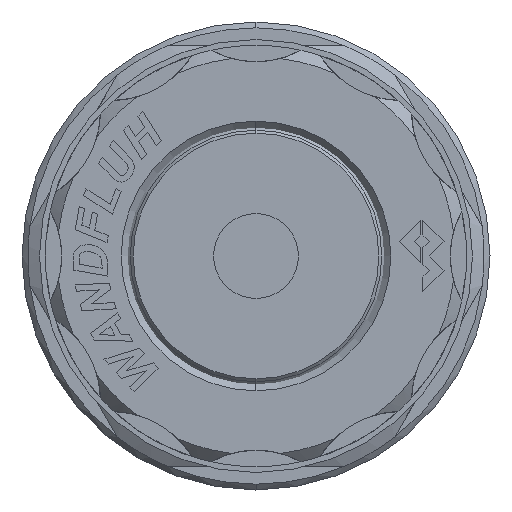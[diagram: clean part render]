
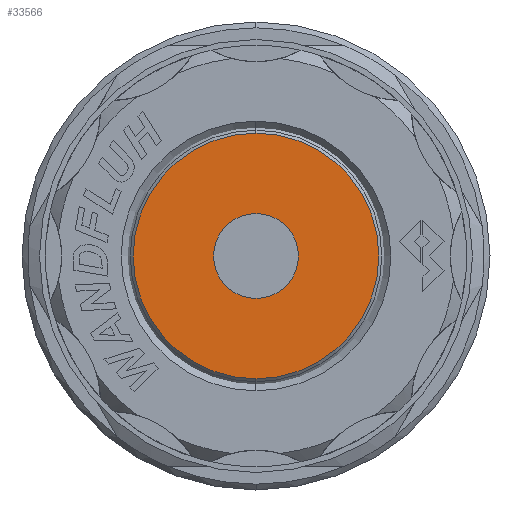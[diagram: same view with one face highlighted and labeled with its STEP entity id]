
A CAD part, left-side view. The second image highlights one B-rep face of the part: STEP entity #33566.
In plain terms, the highlighted planar face has unit normal (-1, 0, 0).
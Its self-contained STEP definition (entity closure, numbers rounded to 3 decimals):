
#3101 = PLANE ( 'NONE',  #6153 ) ;
#3108 = CARTESIAN_POINT ( 'NONE',  ( -70.2, 0., 0. ) ) ;
#3109 = DIRECTION ( 'NONE',  ( 1., 0., 0. ) ) ;
#3110 = DIRECTION ( 'NONE',  ( 0., 0., -1. ) ) ;
#4113 = FACE_BOUND ( 'NONE', #10648, .T. ) ;
#4119 = FACE_OUTER_BOUND ( 'NONE', #11033, .T. ) ;
#6153 = AXIS2_PLACEMENT_3D ( 'NONE', #3108, #3109, #3110 ) ;
#8296 = CARTESIAN_POINT ( 'NONE',  ( -70.2, 0., 0. ) ) ;
#8298 = DIRECTION ( 'NONE',  ( 1., 0., 0. ) ) ;
#8299 = DIRECTION ( 'NONE',  ( 0., 0., -1. ) ) ;
#8343 = CARTESIAN_POINT ( 'NONE',  ( -70.2, 0., 0. ) ) ;
#8345 = DIRECTION ( 'NONE',  ( -1., 0., 0. ) ) ;
#8347 = DIRECTION ( 'NONE',  ( 0., 0., -1. ) ) ;
#10648 = EDGE_LOOP ( 'NONE', ( #24133, #24134 ) ) ;
#11033 = EDGE_LOOP ( 'NONE', ( #24135, #24136 ) ) ;
#12071 = AXIS2_PLACEMENT_3D ( 'NONE', #8296, #8298, #8299 ) ;
#12075 = AXIS2_PLACEMENT_3D ( 'NONE', #8343, #8345, #8347 ) ;
#14961 = CIRCLE ( 'NONE', #12071, 3.625 ) ;
#14972 = CIRCLE ( 'NONE', #12075, 10.5 ) ;
#16278 = CARTESIAN_POINT ( 'NONE',  ( -70.2, 0., 3.625 ) ) ;
#16282 = CARTESIAN_POINT ( 'NONE',  ( -70.2, 0., -10.5 ) ) ;
#19673 = CARTESIAN_POINT ( 'NONE',  ( -70.2, 0., -3.625 ) ) ;
#19887 = CARTESIAN_POINT ( 'NONE',  ( -70.2, 0., 10.5 ) ) ;
#20578 = CARTESIAN_POINT ( 'NONE',  ( -70.2, 0., 0. ) ) ;
#20579 = DIRECTION ( 'NONE',  ( 1., 0., 0. ) ) ;
#20580 = DIRECTION ( 'NONE',  ( 0., 0., -1. ) ) ;
#20581 = CARTESIAN_POINT ( 'NONE',  ( -70.2, 0., 0. ) ) ;
#20582 = DIRECTION ( 'NONE',  ( -1., 0., 0. ) ) ;
#20583 = DIRECTION ( 'NONE',  ( 0., 0., -1. ) ) ;
#21234 = CIRCLE ( 'NONE', #23660, 3.625 ) ;
#21235 = CIRCLE ( 'NONE', #23661, 10.5 ) ;
#23660 = AXIS2_PLACEMENT_3D ( 'NONE', #20578, #20579, #20580 ) ;
#23661 = AXIS2_PLACEMENT_3D ( 'NONE', #20581, #20582, #20583 ) ;
#24133 = ORIENTED_EDGE ( 'NONE', *, *, #30401, .T. ) ;
#24134 = ORIENTED_EDGE ( 'NONE', *, *, #32886, .T. ) ;
#24135 = ORIENTED_EDGE ( 'NONE', *, *, #30403, .T. ) ;
#24136 = ORIENTED_EDGE ( 'NONE', *, *, #32894, .T. ) ;
#26698 = VERTEX_POINT ( 'NONE', #19673 ) ;
#27517 = VERTEX_POINT ( 'NONE', #19887 ) ;
#30401 = EDGE_CURVE ( 'NONE', #26698, #34220, #21234, .T. ) ;
#30403 = EDGE_CURVE ( 'NONE', #34225, #27517, #21235, .T. ) ;
#32886 = EDGE_CURVE ( 'NONE', #34220, #26698, #14961, .T. ) ;
#32894 = EDGE_CURVE ( 'NONE', #27517, #34225, #14972, .T. ) ;
#33566 = ADVANCED_FACE ( 'NONE', ( #4113, #4119 ), #3101, .F. ) ;
#34220 = VERTEX_POINT ( 'NONE', #16278 ) ;
#34225 = VERTEX_POINT ( 'NONE', #16282 ) ;
